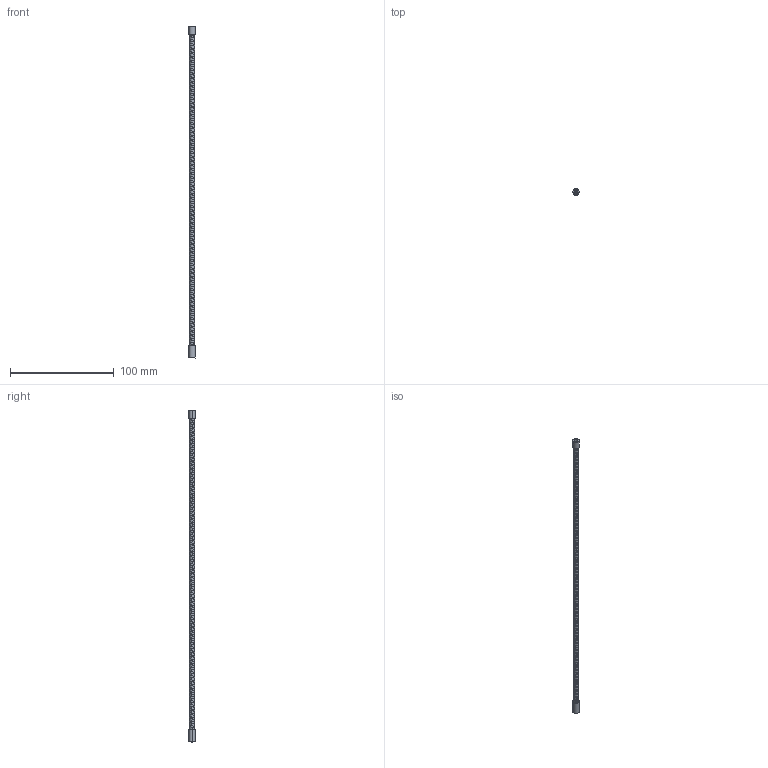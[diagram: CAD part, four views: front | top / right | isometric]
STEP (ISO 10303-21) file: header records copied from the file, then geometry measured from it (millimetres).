
FILE_DESCRIPTION (( 'STEP AP214' ), '1' );
FILE_NAME ('FTH-310.STEP', '2019-06-18T02:40:45', ( '' ), ( '' ), 'SwSTEP 2.0', 'SolidWorks 2018', '' );
FILE_SCHEMA (( 'AUTOMOTIVE_DESIGN' ));
Length unit declared in the file: millimetre
Products named in the file (1): FTH-310
Bounding box: 6 x 6 x 320 mm (x, y, z)
Volume: 3564.9 mm3; surface area: 8316.5 mm2
Topology: 1 solids, 1 shells, 217 faces, 628 edges, 416 vertices
Faces by surface type: cylinder 198, plane 7, cone 6, bspline 6
Entity records: 20328 total; most frequent: CARTESIAN_POINT 15734, ORIENTED_EDGE 1256, DIRECTION 688, EDGE_CURVE 628, VERTEX_POINT 416, AXIS2_PLACEMENT_3D 238, EDGE_LOOP 222, ADVANCED_FACE 217
